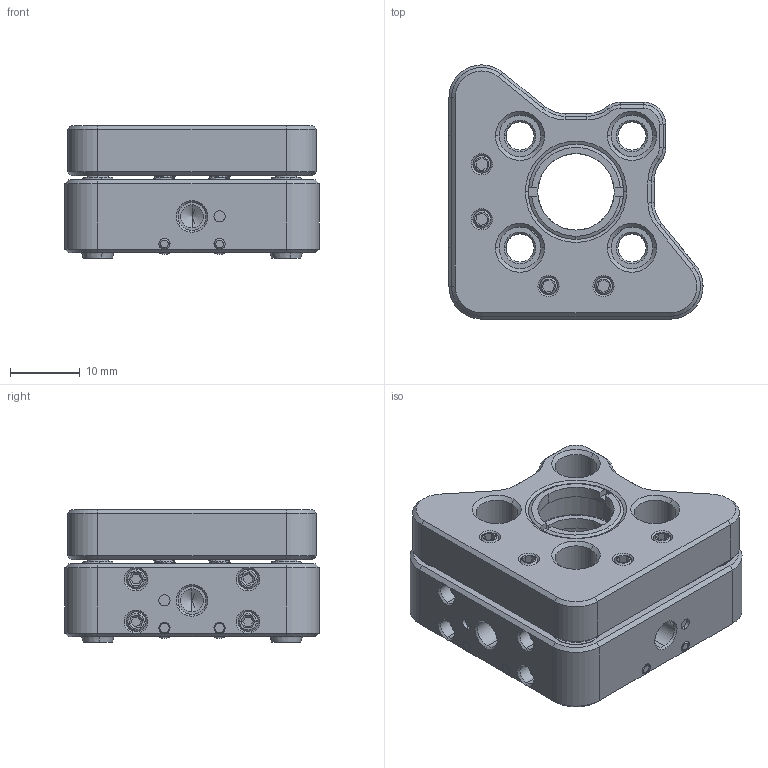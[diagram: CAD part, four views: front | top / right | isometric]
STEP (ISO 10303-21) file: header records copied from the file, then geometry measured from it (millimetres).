
FILE_DESCRIPTION (( 'STEP AP214' ), '1' );
FILE_NAME ('19446-E0W.STEP', '2009-04-21T21:07:23', ( '' ), ( '' ), 'SwSTEP 2.0', 'SolidWorks 2007', '' );
FILE_SCHEMA (( 'AUTOMOTIVE_DESIGN' ));
Length unit declared in the file: millimetre
Products named in the file (1): 19446-E0W
Bounding box: 36.32 x 36.32 x 18.93 mm (x, y, z)
Volume: 12230.9 mm3; surface area: 13082.3 mm2
Topology: 36 solids, 36 shells, 1026 faces, 2444 edges, 1494 vertices
Faces by surface type: cylinder 389, plane 347, cone 244, torus 26, sphere 12, bspline 8
Entity records: 58221 total; most frequent: CARTESIAN_POINT 23409, DIRECTION 4865, ORIENTED_EDGE 4828, EDGE_CURVE 2414, AXIS2_PLACEMENT_3D 1818, VERTEX_POINT 1488, VECTOR 1229, LINE 1229
